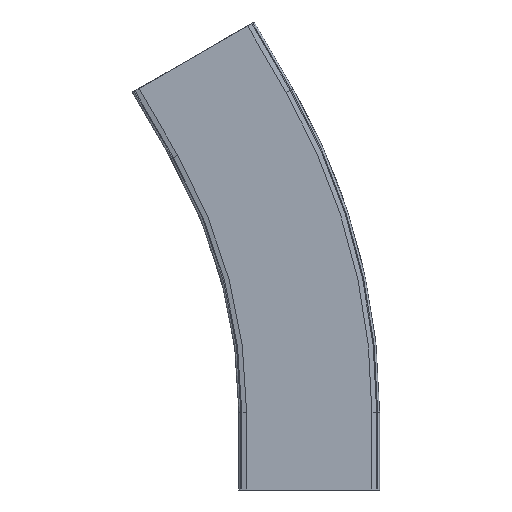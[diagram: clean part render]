
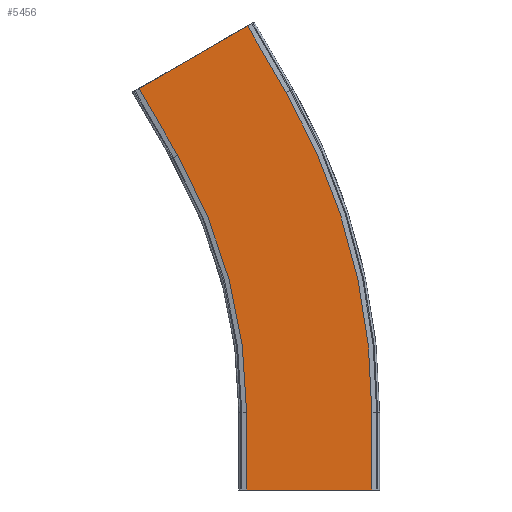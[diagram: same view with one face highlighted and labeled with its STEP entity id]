
A CAD part, front view. The second image highlights one B-rep face of the part: STEP entity #5456.
In plain terms, the highlighted planar face has unit normal (0, -1, 0).
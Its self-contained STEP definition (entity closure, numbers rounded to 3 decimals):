
#5213=CARTESIAN_POINT('',(104.,-74.,0.0));
#5214=VERTEX_POINT('',#5213);
#5221=CARTESIAN_POINT('',(-26.,-74.,0.0));
#5222=VERTEX_POINT('',#5221);
#5223=CARTESIAN_POINT('',(-26.,-74.,0.0));
#5224=DIRECTION('',(1.0,0.0,0.0));
#5225=VECTOR('',#5224,130.);
#5226=LINE('',#5223,#5225);
#5227=EDGE_CURVE('',#5222,#5214,#5226,.T.);
#5282=CARTESIAN_POINT('',(-26.,-74.,80.0));
#5283=VERTEX_POINT('',#5282);
#5292=CARTESIAN_POINT('',(-26.,-74.,0.0));
#5293=DIRECTION('',(0.0,0.0,1.0));
#5294=VECTOR('',#5293,80.0);
#5295=LINE('',#5292,#5294);
#5296=EDGE_CURVE('',#5222,#5283,#5295,.T.);
#5306=CARTESIAN_POINT('',(104.,-74.,80.0));
#5307=VERTEX_POINT('',#5306);
#5316=CARTESIAN_POINT('',(104.,-74.,0.0));
#5317=DIRECTION('',(0.0,0.0,1.0));
#5318=VECTOR('',#5317,80.0);
#5319=LINE('',#5316,#5318);
#5320=EDGE_CURVE('',#5214,#5307,#5319,.T.);
#5339=CARTESIAN_POINT('',(-97.676,-74.,347.5));
#5340=VERTEX_POINT('',#5339);
#5355=CARTESIAN_POINT('',(-561.,-74.,80.0));
#5356=DIRECTION('',(0.0,-1.0,0.0));
#5357=DIRECTION('',(1.0,0.0,0.0));
#5358=AXIS2_PLACEMENT_3D('',#5355,#5356,#5357);
#5359=CIRCLE('',#5358,535.);
#5360=EDGE_CURVE('',#5283,#5340,#5359,.T.);
#5414=CARTESIAN_POINT('',(211.987,-74.0,71.148));
#5415=DIRECTION('',(0.0,-1.0,0.0));
#5416=DIRECTION('',(0.5,0.0,-0.866));
#5417=AXIS2_PLACEMENT_3D('',#5414,#5415,#5416);
#5418=PLANE('',#5417);
#5419=CARTESIAN_POINT('',(-25.093,-74.,481.782));
#5420=VERTEX_POINT('',#5419);
#5421=CARTESIAN_POINT('',(-137.676,-74.,416.782));
#5422=VERTEX_POINT('',#5421);
#5423=CARTESIAN_POINT('',(-25.093,-74.,481.782));
#5424=DIRECTION('',(-0.866,0.,-0.5));
#5425=VECTOR('',#5424,130.0);
#5426=LINE('',#5423,#5425);
#5427=EDGE_CURVE('',#5420,#5422,#5426,.T.);
#5428=ORIENTED_EDGE('',*,*,#5427,.T.);
#5429=CARTESIAN_POINT('',(-97.676,-74.,347.5));
#5430=DIRECTION('',(-0.5,0.,0.866));
#5431=VECTOR('',#5430,80.0);
#5432=LINE('',#5429,#5431);
#5433=EDGE_CURVE('',#5340,#5422,#5432,.T.);
#5434=ORIENTED_EDGE('',*,*,#5433,.F.);
#5435=ORIENTED_EDGE('',*,*,#5360,.F.);
#5436=ORIENTED_EDGE('',*,*,#5296,.F.);
#5437=ORIENTED_EDGE('',*,*,#5227,.T.);
#5438=ORIENTED_EDGE('',*,*,#5320,.T.);
#5439=CARTESIAN_POINT('',(14.907,-74.,412.5));
#5440=VERTEX_POINT('',#5439);
#5441=CARTESIAN_POINT('',(-561.,-74.,80.0));
#5442=DIRECTION('',(0.0,-1.0,0.0));
#5443=DIRECTION('',(1.0,0.0,0.0));
#5444=AXIS2_PLACEMENT_3D('',#5441,#5442,#5443);
#5445=CIRCLE('',#5444,665.);
#5446=EDGE_CURVE('',#5307,#5440,#5445,.T.);
#5447=ORIENTED_EDGE('',*,*,#5446,.T.);
#5448=CARTESIAN_POINT('',(14.907,-74.,412.5));
#5449=DIRECTION('',(-0.5,0.,0.866));
#5450=VECTOR('',#5449,80.);
#5451=LINE('',#5448,#5450);
#5452=EDGE_CURVE('',#5440,#5420,#5451,.T.);
#5453=ORIENTED_EDGE('',*,*,#5452,.T.);
#5454=EDGE_LOOP('',(#5428,#5434,#5435,#5436,#5437,#5438,#5447,#5453));
#5455=FACE_OUTER_BOUND('',#5454,.T.);
#5456=ADVANCED_FACE('',(#5455),#5418,.T.);
